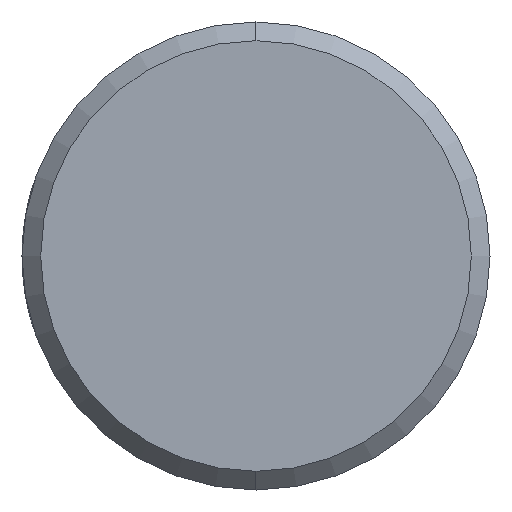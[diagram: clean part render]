
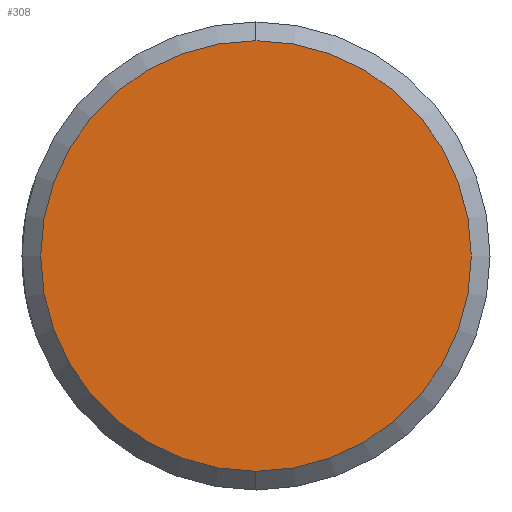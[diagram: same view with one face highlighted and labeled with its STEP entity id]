
A CAD part, left-side view. The second image highlights one B-rep face of the part: STEP entity #308.
In plain terms, the highlighted planar face has unit normal (-1, 0, 0).
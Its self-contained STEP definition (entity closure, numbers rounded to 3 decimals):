
#308 = ADVANCED_FACE ( 'NONE', ( #828 ), #820, .T. ) ;
#309 = ORIENTED_EDGE ( 'NONE', *, *, #310, .T. ) ;
#310 = EDGE_CURVE ( 'NONE', #338, #339, #819, .T. ) ;
#313 = EDGE_LOOP ( 'NONE', ( #309, #368 ) ) ;
#337 = EDGE_CURVE ( 'NONE', #339, #338, #672, .T. ) ;
#338 = VERTEX_POINT ( 'NONE', #793 ) ;
#339 = VERTEX_POINT ( 'NONE', #787 ) ;
#368 = ORIENTED_EDGE ( 'NONE', *, *, #337, .T. ) ;
#656 = DIRECTION ( 'NONE',  ( -1., 0., 0. ) ) ;
#672 = CIRCLE ( 'NONE', #744, 11.5 ) ;
#741 = DIRECTION ( 'NONE',  ( 0., 0., 1. ) ) ;
#742 = DIRECTION ( 'NONE',  ( -1., 0., 0. ) ) ;
#743 = CARTESIAN_POINT ( 'NONE',  ( 0., 0., 0. ) ) ;
#744 = AXIS2_PLACEMENT_3D ( 'NONE', #743, #742, #741 ) ;
#787 = CARTESIAN_POINT ( 'NONE',  ( 0., 0., 11.5 ) ) ;
#793 = CARTESIAN_POINT ( 'NONE',  ( 0., 0., -11.5 ) ) ;
#813 = DIRECTION ( 'NONE',  ( 0., 0., 1. ) ) ;
#814 = AXIS2_PLACEMENT_3D ( 'NONE', #841, #656, #886 ) ;
#815 = DIRECTION ( 'NONE',  ( -1., 0., 0. ) ) ;
#819 = CIRCLE ( 'NONE', #814, 11.5 ) ;
#820 = PLANE ( 'NONE',  #831 ) ;
#824 = CARTESIAN_POINT ( 'NONE',  ( 0., 12.5, 0. ) ) ;
#828 = FACE_OUTER_BOUND ( 'NONE', #313, .T. ) ;
#831 = AXIS2_PLACEMENT_3D ( 'NONE', #824, #815, #813 ) ;
#841 = CARTESIAN_POINT ( 'NONE',  ( 0., 0., 0. ) ) ;
#886 = DIRECTION ( 'NONE',  ( 0., 0., 1. ) ) ;
